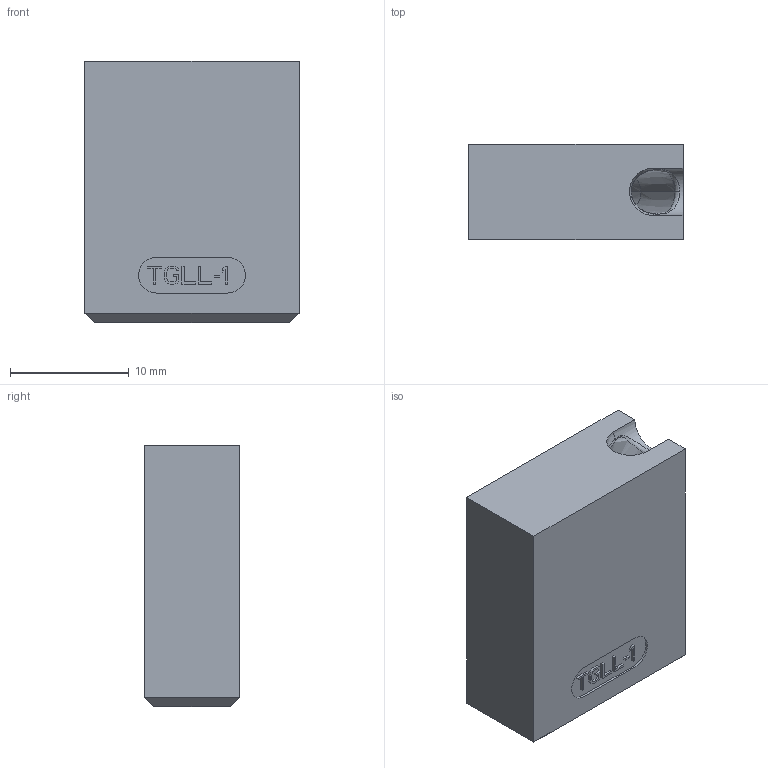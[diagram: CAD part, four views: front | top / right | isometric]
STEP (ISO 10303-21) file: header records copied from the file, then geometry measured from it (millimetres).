
FILE_DESCRIPTION((''),'2;1');
FILE_NAME('TGLL-1','2018-10-08T',('gsawatzky'),(''),'CREO PARAMETRIC BY PTC INC, 2016260','CREO PARAMETRIC BY PTC INC, 2016260','');
FILE_SCHEMA(('AUTOMOTIVE_DESIGN { 1 0 10303 214 1 1 1 1 }'));
Length unit declared in the file: millimetre
Products named in the file (1): TGLL-1
Bounding box: 18 x 8 x 22 mm (x, y, z)
Volume: 2903.8 mm3; surface area: 1795.2 mm2
Topology: 1 solids, 4 shells, 154 faces, 409 edges, 261 vertices
Faces by surface type: plane 116, bspline 12, cylinder 9, sphere 7, cone 4, revolution 2, extrusion 2, torus 2
Entity records: 7401 total; most frequent: CARTESIAN_POINT 2304, ORIENTED_EDGE 792, DIRECTION 703, PRESENTATION_STYLE_ASSIGNMENT 404, STYLED_ITEM 404, CURVE_STYLE 400, EDGE_CURVE 400, VECTOR 329
